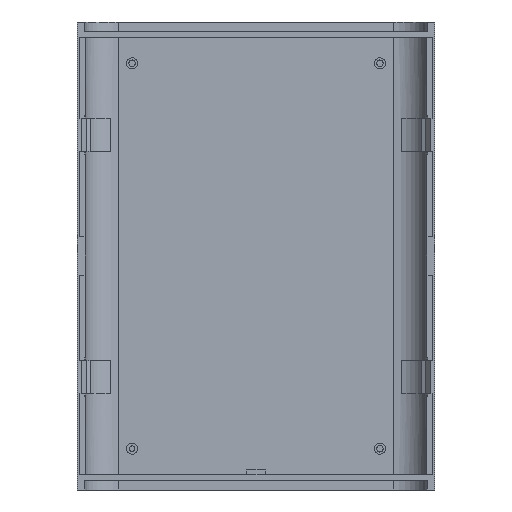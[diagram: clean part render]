
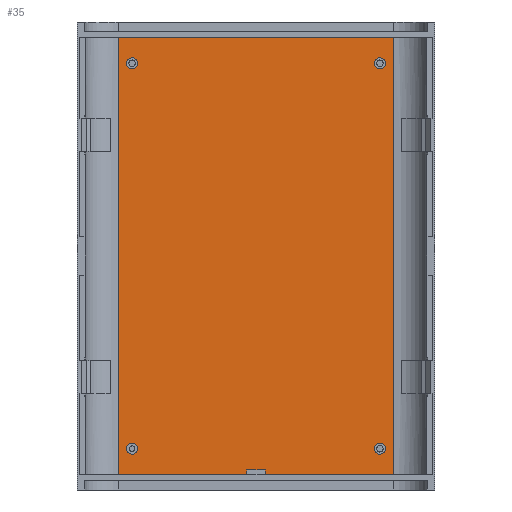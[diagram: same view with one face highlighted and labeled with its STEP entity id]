
A CAD part, front view. The second image highlights one B-rep face of the part: STEP entity #35.
In plain terms, the highlighted planar face has unit normal (0, -1, 0).
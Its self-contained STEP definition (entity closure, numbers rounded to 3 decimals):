
#19 = DIRECTION ( 'NONE',  ( 0., 0., -1. ) ) ;
#28 = DIRECTION ( 'NONE',  ( 0., -1., 0. ) ) ;
#35 = ADVANCED_FACE ( 'NONE', ( #2228, #3268, #2336, #4093, #1302 ), #575, .T. ) ;
#82 = EDGE_CURVE ( 'NONE', #807, #324, #3875, .T. ) ;
#88 = CARTESIAN_POINT ( 'NONE',  ( -3.35, 12.2, -79.5 ) ) ;
#125 = ORIENTED_EDGE ( 'NONE', *, *, #82, .T. ) ;
#130 = ORIENTED_EDGE ( 'NONE', *, *, #826, .F. ) ;
#133 = DIRECTION ( 'NONE',  ( -1., 0., 0. ) ) ;
#134 = ORIENTED_EDGE ( 'NONE', *, *, #3454, .F. ) ;
#137 = CARTESIAN_POINT ( 'NONE',  ( -45., 12.2, -70. ) ) ;
#138 = VECTOR ( 'NONE', #4500, 1000. ) ;
#242 = ORIENTED_EDGE ( 'NONE', *, *, #872, .F. ) ;
#258 = CARTESIAN_POINT ( 'NONE',  ( -62.2, 12.2, 79.5 ) ) ;
#299 = EDGE_CURVE ( 'NONE', #324, #1959, #1243, .T. ) ;
#318 = LINE ( 'NONE', #743, #426 ) ;
#324 = VERTEX_POINT ( 'NONE', #2240 ) ;
#426 = VECTOR ( 'NONE', #738, 1000. ) ;
#575 = PLANE ( 'NONE',  #4462 ) ;
#580 = CARTESIAN_POINT ( 'NONE',  ( -45., 12.2, -72. ) ) ;
#588 = EDGE_CURVE ( 'NONE', #2320, #1894, #3357, .T. ) ;
#609 = LINE ( 'NONE', #2101, #4232 ) ;
#653 = VERTEX_POINT ( 'NONE', #4072 ) ;
#665 = VECTOR ( 'NONE', #1274, 1000. ) ;
#681 = ORIENTED_EDGE ( 'NONE', *, *, #1285, .F. ) ;
#694 = CARTESIAN_POINT ( 'NONE',  ( 45., 12.2, 72. ) ) ;
#702 = VECTOR ( 'NONE', #2977, 1000. ) ;
#726 = ORIENTED_EDGE ( 'NONE', *, *, #299, .T. ) ;
#731 = CARTESIAN_POINT ( 'NONE',  ( 3.35, 12.2, -77.7 ) ) ;
#734 = ORIENTED_EDGE ( 'NONE', *, *, #588, .F. ) ;
#738 = DIRECTION ( 'NONE',  ( 0., 0., 1. ) ) ;
#743 = CARTESIAN_POINT ( 'NONE',  ( -3.35, 12.2, -79.5 ) ) ;
#748 = EDGE_LOOP ( 'NONE', ( #734, #134 ) ) ;
#804 = VERTEX_POINT ( 'NONE', #2968 ) ;
#807 = VERTEX_POINT ( 'NONE', #3094 ) ;
#826 = EDGE_CURVE ( 'NONE', #2119, #653, #4342, .T. ) ;
#845 = DIRECTION ( 'NONE',  ( 0., -1., 0. ) ) ;
#848 = AXIS2_PLACEMENT_3D ( 'NONE', #3291, #3277, #3260 ) ;
#868 = LINE ( 'NONE', #1939, #4269 ) ;
#872 = EDGE_CURVE ( 'NONE', #2184, #2326, #1335, .T. ) ;
#925 = EDGE_CURVE ( 'NONE', #804, #3147, #2154, .T. ) ;
#964 = AXIS2_PLACEMENT_3D ( 'NONE', #3760, #3756, #3744 ) ;
#967 = CARTESIAN_POINT ( 'NONE',  ( -62.2, 12.2, -79.5 ) ) ;
#989 = DIRECTION ( 'NONE',  ( 0., 0., -1. ) ) ;
#1023 = EDGE_CURVE ( 'NONE', #3597, #1320, #2634, .T. ) ;
#1063 = ORIENTED_EDGE ( 'NONE', *, *, #3035, .T. ) ;
#1077 = DIRECTION ( 'NONE',  ( 0., -1., 0. ) ) ;
#1122 = CARTESIAN_POINT ( 'NONE',  ( -3.35, 12.2, -77.7 ) ) ;
#1135 = VECTOR ( 'NONE', #2682, 1000. ) ;
#1200 = AXIS2_PLACEMENT_3D ( 'NONE', #3471, #3457, #3449 ) ;
#1243 = LINE ( 'NONE', #2505, #1135 ) ;
#1274 = DIRECTION ( 'NONE',  ( 0., 0., 1. ) ) ;
#1285 = EDGE_CURVE ( 'NONE', #2326, #2184, #2993, .T. ) ;
#1287 = CARTESIAN_POINT ( 'NONE',  ( -50., 12.2, -85. ) ) ;
#1302 = FACE_BOUND ( 'NONE', #3673, .T. ) ;
#1320 = VERTEX_POINT ( 'NONE', #3762 ) ;
#1332 = CARTESIAN_POINT ( 'NONE',  ( -50., 12.2, -85. ) ) ;
#1335 = CIRCLE ( 'NONE', #2222, 2. ) ;
#1340 = ORIENTED_EDGE ( 'NONE', *, *, #1023, .F. ) ;
#1565 = ORIENTED_EDGE ( 'NONE', *, *, #2436, .F. ) ;
#1573 = CARTESIAN_POINT ( 'NONE',  ( -45., 12.2, 68. ) ) ;
#1702 = ORIENTED_EDGE ( 'NONE', *, *, #3605, .T. ) ;
#1849 = EDGE_LOOP ( 'NONE', ( #1565, #2064 ) ) ;
#1861 = VERTEX_POINT ( 'NONE', #731 ) ;
#1886 = DIRECTION ( 'NONE',  ( 1., 0., 0. ) ) ;
#1889 = ORIENTED_EDGE ( 'NONE', *, *, #2103, .T. ) ;
#1891 = DIRECTION ( 'NONE',  ( 1., 0., 0. ) ) ;
#1894 = VERTEX_POINT ( 'NONE', #580 ) ;
#1939 = CARTESIAN_POINT ( 'NONE',  ( 3.35, 12.2, -77.7 ) ) ;
#1947 = VERTEX_POINT ( 'NONE', #88 ) ;
#1959 = VERTEX_POINT ( 'NONE', #4132 ) ;
#2064 = ORIENTED_EDGE ( 'NONE', *, *, #925, .F. ) ;
#2101 = CARTESIAN_POINT ( 'NONE',  ( -62.2, 12.2, -79.5 ) ) ;
#2103 = EDGE_CURVE ( 'NONE', #3597, #1947, #609, .T. ) ;
#2119 = VERTEX_POINT ( 'NONE', #1573 ) ;
#2124 = DIRECTION ( 'NONE',  ( 0., 0., -1. ) ) ;
#2129 = DIRECTION ( 'NONE',  ( 0., -1., 0. ) ) ;
#2154 = CIRCLE ( 'NONE', #4332, 2. ) ;
#2169 = ORIENTED_EDGE ( 'NONE', *, *, #3512, .F. ) ;
#2175 = CARTESIAN_POINT ( 'NONE',  ( 45., 12.2, -70. ) ) ;
#2184 = VERTEX_POINT ( 'NONE', #694 ) ;
#2197 = CIRCLE ( 'NONE', #964, 2. ) ;
#2222 = AXIS2_PLACEMENT_3D ( 'NONE', #2393, #845, #2355 ) ;
#2228 = FACE_OUTER_BOUND ( 'NONE', #4504, .T. ) ;
#2240 = CARTESIAN_POINT ( 'NONE',  ( 50., 12.2, -79.5 ) ) ;
#2320 = VERTEX_POINT ( 'NONE', #3971 ) ;
#2326 = VERTEX_POINT ( 'NONE', #3897 ) ;
#2336 = FACE_BOUND ( 'NONE', #3691, .T. ) ;
#2355 = DIRECTION ( 'NONE',  ( 0., 0., -1. ) ) ;
#2393 = CARTESIAN_POINT ( 'NONE',  ( 45., 12.2, 70. ) ) ;
#2436 = EDGE_CURVE ( 'NONE', #3147, #804, #4448, .T. ) ;
#2505 = CARTESIAN_POINT ( 'NONE',  ( 50., 12.2, -85. ) ) ;
#2593 = ORIENTED_EDGE ( 'NONE', *, *, #2922, .T. ) ;
#2634 = LINE ( 'NONE', #1332, #665 ) ;
#2669 = LINE ( 'NONE', #258, #4435 ) ;
#2677 = AXIS2_PLACEMENT_3D ( 'NONE', #2822, #2771, #2798 ) ;
#2682 = DIRECTION ( 'NONE',  ( 0., 0., 1. ) ) ;
#2762 = AXIS2_PLACEMENT_3D ( 'NONE', #137, #28, #19 ) ;
#2771 = DIRECTION ( 'NONE',  ( 0., -1., 0. ) ) ;
#2798 = DIRECTION ( 'NONE',  ( 0., 0., -1. ) ) ;
#2822 = CARTESIAN_POINT ( 'NONE',  ( -45., 12.2, 70. ) ) ;
#2852 = VERTEX_POINT ( 'NONE', #1122 ) ;
#2891 = CIRCLE ( 'NONE', #1200, 2. ) ;
#2922 = EDGE_CURVE ( 'NONE', #1947, #2852, #318, .T. ) ;
#2968 = CARTESIAN_POINT ( 'NONE',  ( 45., 12.2, -72. ) ) ;
#2977 = DIRECTION ( 'NONE',  ( 0., 0., -1. ) ) ;
#2993 = CIRCLE ( 'NONE', #3992, 2. ) ;
#3035 = EDGE_CURVE ( 'NONE', #1959, #1320, #2669, .T. ) ;
#3094 = CARTESIAN_POINT ( 'NONE',  ( 3.35, 12.2, -79.5 ) ) ;
#3105 = CARTESIAN_POINT ( 'NONE',  ( 3.35, 12.2, -79.5 ) ) ;
#3126 = CARTESIAN_POINT ( 'NONE',  ( -50., 12.2, -79.5 ) ) ;
#3147 = VERTEX_POINT ( 'NONE', #3201 ) ;
#3201 = CARTESIAN_POINT ( 'NONE',  ( 45., 12.2, -68. ) ) ;
#3260 = DIRECTION ( 'NONE',  ( 0., 0., -1. ) ) ;
#3268 = FACE_BOUND ( 'NONE', #1849, .T. ) ;
#3277 = DIRECTION ( 'NONE',  ( 0., -1., 0. ) ) ;
#3291 = CARTESIAN_POINT ( 'NONE',  ( 45., 12.2, -70. ) ) ;
#3357 = CIRCLE ( 'NONE', #2762, 2. ) ;
#3395 = LINE ( 'NONE', #3105, #702 ) ;
#3449 = DIRECTION ( 'NONE',  ( 0., 0., -1. ) ) ;
#3454 = EDGE_CURVE ( 'NONE', #1894, #2320, #2197, .T. ) ;
#3457 = DIRECTION ( 'NONE',  ( 0., -1., 0. ) ) ;
#3471 = CARTESIAN_POINT ( 'NONE',  ( -45., 12.2, 70. ) ) ;
#3512 = EDGE_CURVE ( 'NONE', #653, #2119, #2891, .T. ) ;
#3527 = ORIENTED_EDGE ( 'NONE', *, *, #3802, .T. ) ;
#3597 = VERTEX_POINT ( 'NONE', #3126 ) ;
#3605 = EDGE_CURVE ( 'NONE', #1861, #807, #3395, .T. ) ;
#3673 = EDGE_LOOP ( 'NONE', ( #242, #681 ) ) ;
#3691 = EDGE_LOOP ( 'NONE', ( #2169, #130 ) ) ;
#3744 = DIRECTION ( 'NONE',  ( 0., 0., -1. ) ) ;
#3756 = DIRECTION ( 'NONE',  ( 0., -1., 0. ) ) ;
#3760 = CARTESIAN_POINT ( 'NONE',  ( -45., 12.2, -70. ) ) ;
#3762 = CARTESIAN_POINT ( 'NONE',  ( -50., 12.2, 79.5 ) ) ;
#3802 = EDGE_CURVE ( 'NONE', #2852, #1861, #868, .T. ) ;
#3875 = LINE ( 'NONE', #967, #138 ) ;
#3897 = CARTESIAN_POINT ( 'NONE',  ( 45., 12.2, 68. ) ) ;
#3971 = CARTESIAN_POINT ( 'NONE',  ( -45., 12.2, -68. ) ) ;
#3992 = AXIS2_PLACEMENT_3D ( 'NONE', #4063, #4058, #4055 ) ;
#4055 = DIRECTION ( 'NONE',  ( 0., 0., -1. ) ) ;
#4058 = DIRECTION ( 'NONE',  ( 0., -1., 0. ) ) ;
#4063 = CARTESIAN_POINT ( 'NONE',  ( 45., 12.2, 70. ) ) ;
#4072 = CARTESIAN_POINT ( 'NONE',  ( -45., 12.2, 72. ) ) ;
#4093 = FACE_BOUND ( 'NONE', #748, .T. ) ;
#4132 = CARTESIAN_POINT ( 'NONE',  ( 50., 12.2, 79.5 ) ) ;
#4232 = VECTOR ( 'NONE', #1886, 1000. ) ;
#4269 = VECTOR ( 'NONE', #1891, 1000. ) ;
#4332 = AXIS2_PLACEMENT_3D ( 'NONE', #2175, #2129, #2124 ) ;
#4342 = CIRCLE ( 'NONE', #2677, 2. ) ;
#4435 = VECTOR ( 'NONE', #133, 1000. ) ;
#4448 = CIRCLE ( 'NONE', #848, 2. ) ;
#4462 = AXIS2_PLACEMENT_3D ( 'NONE', #1287, #1077, #989 ) ;
#4500 = DIRECTION ( 'NONE',  ( 1., 0., 0. ) ) ;
#4504 = EDGE_LOOP ( 'NONE', ( #1702, #125, #726, #1063, #1340, #1889, #2593, #3527 ) ) ;
